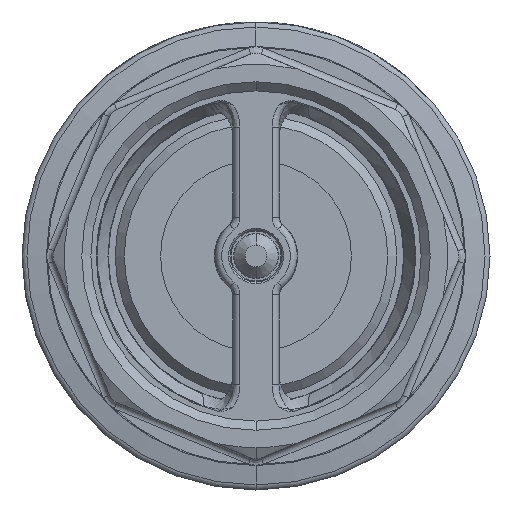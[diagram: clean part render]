
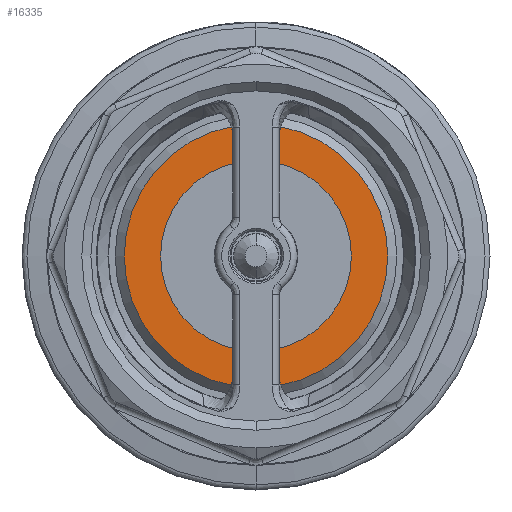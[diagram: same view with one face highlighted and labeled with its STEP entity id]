
A CAD part, front view. The second image highlights one B-rep face of the part: STEP entity #16335.
In plain terms, the highlighted planar face has unit normal (0, -1, 0).
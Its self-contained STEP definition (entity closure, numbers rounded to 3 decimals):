
#1234 = ORIENTED_EDGE ( 'NONE', *, *, #18308, .T. ) ;
#1353 = CARTESIAN_POINT ( 'NONE',  ( 0., -74., 29. ) ) ;
#1590 = ORIENTED_EDGE ( 'NONE', *, *, #22597, .F. ) ;
#1891 = CIRCLE ( 'NONE', #24127, 21. ) ;
#2058 = DIRECTION ( 'NONE',  ( 0., -1., 0. ) ) ;
#2297 = VERTEX_POINT ( 'NONE', #12656 ) ;
#3036 = AXIS2_PLACEMENT_3D ( 'NONE', #13362, #2058, #15251 ) ;
#3130 = CARTESIAN_POINT ( 'NONE',  ( 0., -74., 0. ) ) ;
#3324 = CARTESIAN_POINT ( 'NONE',  ( 0., -74., 0. ) ) ;
#4551 = CIRCLE ( 'NONE', #6740, 29. ) ;
#4901 = DIRECTION ( 'NONE',  ( 0., 0., -1. ) ) ;
#4999 = DIRECTION ( 'NONE',  ( 0., 0., -1. ) ) ;
#5148 = CARTESIAN_POINT ( 'NONE',  ( 0., -74., 0. ) ) ;
#5200 = DIRECTION ( 'NONE',  ( 0., 0., -1. ) ) ;
#6504 = VERTEX_POINT ( 'NONE', #18878 ) ;
#6740 = AXIS2_PLACEMENT_3D ( 'NONE', #3130, #16310, #4999 ) ;
#7059 = DIRECTION ( 'NONE',  ( 0., 0., -1. ) ) ;
#7322 = VERTEX_POINT ( 'NONE', #23620 ) ;
#7900 = AXIS2_PLACEMENT_3D ( 'NONE', #5148, #18341, #7059 ) ;
#8588 = EDGE_CURVE ( 'NONE', #7322, #20157, #17969, .T. ) ;
#8617 = PLANE ( 'NONE',  #23769 ) ;
#9260 = EDGE_LOOP ( 'NONE', ( #1234, #13616 ) ) ;
#11635 = ORIENTED_EDGE ( 'NONE', *, *, #20191, .F. ) ;
#12656 = CARTESIAN_POINT ( 'NONE',  ( 0., -74., -21. ) ) ;
#13058 = CIRCLE ( 'NONE', #7900, 21. ) ;
#13362 = CARTESIAN_POINT ( 'NONE',  ( 0., -74., 0. ) ) ;
#13616 = ORIENTED_EDGE ( 'NONE', *, *, #8588, .T. ) ;
#14323 = CARTESIAN_POINT ( 'NONE',  ( 21., -74., 0. ) ) ;
#14370 = FACE_BOUND ( 'NONE', #17159, .T. ) ;
#14942 = FACE_OUTER_BOUND ( 'NONE', #9260, .T. ) ;
#15251 = DIRECTION ( 'NONE',  ( 0., 0., -1. ) ) ;
#16202 = DIRECTION ( 'NONE',  ( 0., -1., 0. ) ) ;
#16310 = DIRECTION ( 'NONE',  ( 0., -1., 0. ) ) ;
#16335 = ADVANCED_FACE ( 'NONE', ( #14942, #14370 ), #8617, .T. ) ;
#16505 = DIRECTION ( 'NONE',  ( 0., -1., 0. ) ) ;
#17159 = EDGE_LOOP ( 'NONE', ( #1590, #11635 ) ) ;
#17969 = CIRCLE ( 'NONE', #3036, 29. ) ;
#18308 = EDGE_CURVE ( 'NONE', #20157, #7322, #4551, .T. ) ;
#18341 = DIRECTION ( 'NONE',  ( 0., -1., 0. ) ) ;
#18878 = CARTESIAN_POINT ( 'NONE',  ( 0., -74., 21. ) ) ;
#20157 = VERTEX_POINT ( 'NONE', #1353 ) ;
#20191 = EDGE_CURVE ( 'NONE', #6504, #2297, #1891, .T. ) ;
#22597 = EDGE_CURVE ( 'NONE', #2297, #6504, #13058, .T. ) ;
#23620 = CARTESIAN_POINT ( 'NONE',  ( 0., -74., -29. ) ) ;
#23769 = AXIS2_PLACEMENT_3D ( 'NONE', #14323, #16202, #4901 ) ;
#24127 = AXIS2_PLACEMENT_3D ( 'NONE', #3324, #16505, #5200 ) ;
